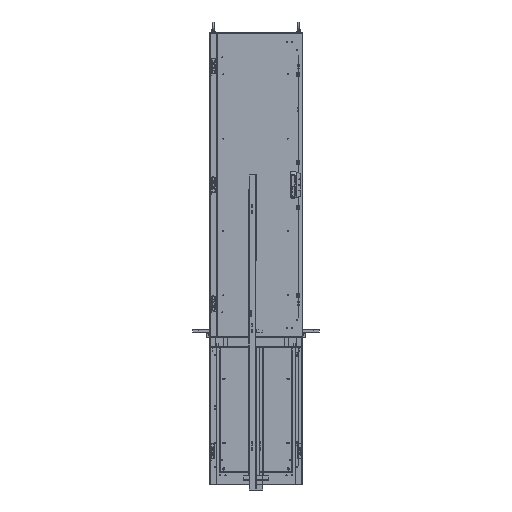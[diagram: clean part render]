
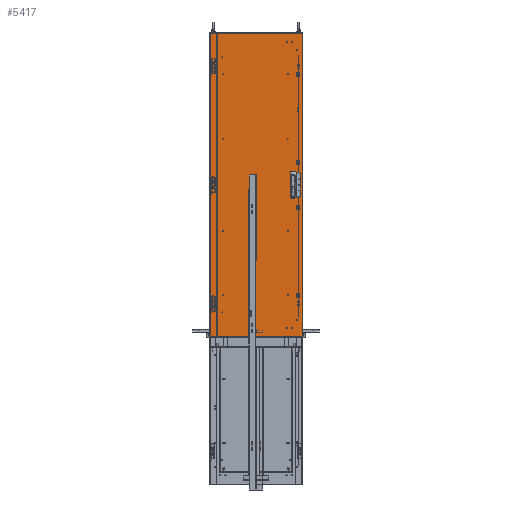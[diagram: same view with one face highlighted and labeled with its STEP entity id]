
A CAD part, front view. The second image highlights one B-rep face of the part: STEP entity #5417.
In plain terms, the highlighted planar face has unit normal (0, -1, 0).
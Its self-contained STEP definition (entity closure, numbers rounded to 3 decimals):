
#5417 = ADVANCED_FACE( '', ( #8033, #8034, #8035, #8036, #8037, #8038 ), #8039, .T. );
#8033 = FACE_BOUND( '', #12966, .T. );
#8034 = FACE_BOUND( '', #12967, .T. );
#8035 = FACE_BOUND( '', #12968, .T. );
#8036 = FACE_OUTER_BOUND( '', #12969, .T. );
#8037 = FACE_BOUND( '', #12970, .T. );
#8038 = FACE_BOUND( '', #12971, .T. );
#8039 = PLANE( '', #12972 );
#12966 = EDGE_LOOP( '', ( #22028, #22029, #22030, #22031 ) );
#12967 = EDGE_LOOP( '', ( #22032 ) );
#12968 = EDGE_LOOP( '', ( #22033, #22034, #22035, #22036 ) );
#12969 = EDGE_LOOP( '', ( #22037, #22038, #22039, #22040 ) );
#12970 = EDGE_LOOP( '', ( #22041, #22042, #22043, #22044 ) );
#12971 = EDGE_LOOP( '', ( #22045 ) );
#12972 = AXIS2_PLACEMENT_3D( '', #22046, #22047, #22048 );
#22028 = ORIENTED_EDGE( '', *, *, #37357, .F. );
#22029 = ORIENTED_EDGE( '', *, *, #37358, .F. );
#22030 = ORIENTED_EDGE( '', *, *, #37359, .F. );
#22031 = ORIENTED_EDGE( '', *, *, #37360, .F. );
#22032 = ORIENTED_EDGE( '', *, *, #37361, .T. );
#22033 = ORIENTED_EDGE( '', *, *, #37362, .F. );
#22034 = ORIENTED_EDGE( '', *, *, #37363, .F. );
#22035 = ORIENTED_EDGE( '', *, *, #37364, .F. );
#22036 = ORIENTED_EDGE( '', *, *, #37365, .F. );
#22037 = ORIENTED_EDGE( '', *, *, #37366, .T. );
#22038 = ORIENTED_EDGE( '', *, *, #37367, .F. );
#22039 = ORIENTED_EDGE( '', *, *, #37368, .F. );
#22040 = ORIENTED_EDGE( '', *, *, #37369, .F. );
#22041 = ORIENTED_EDGE( '', *, *, #37370, .T. );
#22042 = ORIENTED_EDGE( '', *, *, #37371, .T. );
#22043 = ORIENTED_EDGE( '', *, *, #37372, .T. );
#22044 = ORIENTED_EDGE( '', *, *, #37373, .T. );
#22045 = ORIENTED_EDGE( '', *, *, #37374, .T. );
#22046 = CARTESIAN_POINT( '', ( -289.751, 0., -948.531 ) );
#22047 = DIRECTION( '', ( 0., -1., 0. ) );
#22048 = DIRECTION( '', ( 0., 0., -1. ) );
#37357 = EDGE_CURVE( '', #43024, #43025, #43026, .T. );
#37358 = EDGE_CURVE( '', #43027, #43024, #43028, .T. );
#37359 = EDGE_CURVE( '', #43029, #43027, #43030, .T. );
#37360 = EDGE_CURVE( '', #43025, #43029, #43031, .T. );
#37361 = EDGE_CURVE( '', #43032, #43032, #43033, .T. );
#37362 = EDGE_CURVE( '', #43034, #43035, #43036, .T. );
#37363 = EDGE_CURVE( '', #43037, #43034, #43038, .T. );
#37364 = EDGE_CURVE( '', #43039, #43037, #43040, .T. );
#37365 = EDGE_CURVE( '', #43035, #43039, #43041, .T. );
#37366 = EDGE_CURVE( '', #43042, #43043, #43044, .T. );
#37367 = EDGE_CURVE( '', #43045, #43043, #43046, .T. );
#37368 = EDGE_CURVE( '', #43047, #43045, #43048, .T. );
#37369 = EDGE_CURVE( '', #43042, #43047, #43049, .T. );
#37370 = EDGE_CURVE( '', #43050, #43051, #43052, .T. );
#37371 = EDGE_CURVE( '', #43051, #43053, #43054, .T. );
#37372 = EDGE_CURVE( '', #43053, #43055, #43056, .T. );
#37373 = EDGE_CURVE( '', #43055, #43050, #43057, .T. );
#37374 = EDGE_CURVE( '', #43058, #43058, #43059, .T. );
#43024 = VERTEX_POINT( '', #52424 );
#43025 = VERTEX_POINT( '', #52425 );
#43026 = LINE( '', #52426, #52427 );
#43027 = VERTEX_POINT( '', #52428 );
#43028 = LINE( '', #52429, #52430 );
#43029 = VERTEX_POINT( '', #52431 );
#43030 = LINE( '', #52432, #52433 );
#43031 = LINE( '', #52434, #52435 );
#43032 = VERTEX_POINT( '', #52436 );
#43033 = CIRCLE( '', #52437, 4.013 );
#43034 = VERTEX_POINT( '', #52438 );
#43035 = VERTEX_POINT( '', #52439 );
#43036 = LINE( '', #52440, #52441 );
#43037 = VERTEX_POINT( '', #52442 );
#43038 = LINE( '', #52443, #52444 );
#43039 = VERTEX_POINT( '', #52445 );
#43040 = LINE( '', #52446, #52447 );
#43041 = LINE( '', #52448, #52449 );
#43042 = VERTEX_POINT( '', #52450 );
#43043 = VERTEX_POINT( '', #52451 );
#43044 = LINE( '', #52452, #52453 );
#43045 = VERTEX_POINT( '', #52454 );
#43046 = LINE( '', #52455, #52456 );
#43047 = VERTEX_POINT( '', #52457 );
#43048 = LINE( '', #52458, #52459 );
#43049 = LINE( '', #52460, #52461 );
#43050 = VERTEX_POINT( '', #52462 );
#43051 = VERTEX_POINT( '', #52463 );
#43052 = LINE( '', #52464, #52465 );
#43053 = VERTEX_POINT( '', #52466 );
#43054 = LINE( '', #52467, #52468 );
#43055 = VERTEX_POINT( '', #52469 );
#43056 = LINE( '', #52470, #52471 );
#43057 = LINE( '', #52472, #52473 );
#43058 = VERTEX_POINT( '', #52474 );
#43059 = CIRCLE( '', #52475, 4.013 );
#52424 = CARTESIAN_POINT( '', ( -242.233, 0., 75.006 ) );
#52425 = CARTESIAN_POINT( '', ( -242.233, 0., 24.994 ) );
#52426 = CARTESIAN_POINT( '', ( -242.233, 0., 75.006 ) );
#52427 = VECTOR( '', #67290, 1000. );
#52428 = CARTESIAN_POINT( '', ( -217.239, 0., 75.006 ) );
#52429 = CARTESIAN_POINT( '', ( -217.239, 0., 75.006 ) );
#52430 = VECTOR( '', #67291, 1000. );
#52431 = CARTESIAN_POINT( '', ( -217.239, 0., 24.994 ) );
#52432 = CARTESIAN_POINT( '', ( -217.239, 0., 24.994 ) );
#52433 = VECTOR( '', #67292, 1000. );
#52434 = CARTESIAN_POINT( '', ( -242.233, 0., 24.994 ) );
#52435 = VECTOR( '', #67293, 1000. );
#52436 = CARTESIAN_POINT( '', ( -261.714, 0., 35.001 ) );
#52437 = AXIS2_PLACEMENT_3D( '', #67294, #67295, #67296 );
#52438 = CARTESIAN_POINT( '', ( -266.248, 0., 15.875 ) );
#52439 = CARTESIAN_POINT( '', ( -266.248, 0., -15.875 ) );
#52440 = CARTESIAN_POINT( '', ( -266.248, 0., 15.875 ) );
#52441 = VECTOR( '', #67297, 1000. );
#52442 = CARTESIAN_POINT( '', ( -261.244, 0., 15.875 ) );
#52443 = CARTESIAN_POINT( '', ( -261.244, 0., 15.875 ) );
#52444 = VECTOR( '', #67298, 1000. );
#52445 = CARTESIAN_POINT( '', ( -261.244, 0., -15.875 ) );
#52446 = CARTESIAN_POINT( '', ( -261.244, 0., -15.875 ) );
#52447 = VECTOR( '', #67299, 1000. );
#52448 = CARTESIAN_POINT( '', ( -266.248, 0., -15.875 ) );
#52449 = VECTOR( '', #67300, 1000. );
#52450 = CARTESIAN_POINT( '', ( 287.007, 0., 945.788 ) );
#52451 = CARTESIAN_POINT( '', ( -287.007, 0., 945.788 ) );
#52452 = CARTESIAN_POINT( '', ( 287.007, 0., 945.788 ) );
#52453 = VECTOR( '', #67301, 1000. );
#52454 = CARTESIAN_POINT( '', ( -287.007, 0., -945.788 ) );
#52455 = CARTESIAN_POINT( '', ( -287.007, 0., -945.788 ) );
#52456 = VECTOR( '', #67302, 1000. );
#52457 = CARTESIAN_POINT( '', ( 287.007, 0., -945.788 ) );
#52458 = CARTESIAN_POINT( '', ( 287.007, 0., -945.788 ) );
#52459 = VECTOR( '', #67303, 1000. );
#52460 = CARTESIAN_POINT( '', ( 287.007, 0., 945.788 ) );
#52461 = VECTOR( '', #67304, 1000. );
#52462 = CARTESIAN_POINT( '', ( -242.233, 0., -25.019 ) );
#52463 = CARTESIAN_POINT( '', ( -217.239, 0., -25.019 ) );
#52464 = CARTESIAN_POINT( '', ( -242.233, 0., -25.019 ) );
#52465 = VECTOR( '', #67305, 1000. );
#52466 = CARTESIAN_POINT( '', ( -217.239, 0., -75.032 ) );
#52467 = CARTESIAN_POINT( '', ( -217.239, 0., -25.019 ) );
#52468 = VECTOR( '', #67306, 1000. );
#52469 = CARTESIAN_POINT( '', ( -242.233, 0., -75.032 ) );
#52470 = CARTESIAN_POINT( '', ( -217.239, 0., -75.032 ) );
#52471 = VECTOR( '', #67307, 1000. );
#52472 = CARTESIAN_POINT( '', ( -242.233, 0., -75.032 ) );
#52473 = VECTOR( '', #67308, 1000. );
#52474 = CARTESIAN_POINT( '', ( -261.714, 0., -35.001 ) );
#52475 = AXIS2_PLACEMENT_3D( '', #67309, #67310, #67311 );
#67290 = DIRECTION( '', ( 0., 0., -1. ) );
#67291 = DIRECTION( '', ( -1., 0., 0. ) );
#67292 = DIRECTION( '', ( 0., 0., 1. ) );
#67293 = DIRECTION( '', ( 1., 0., 0. ) );
#67294 = CARTESIAN_POINT( '', ( -265.728, 0., 35.001 ) );
#67295 = DIRECTION( '', ( 0., 1., 0. ) );
#67296 = DIRECTION( '', ( 1., 0., 0. ) );
#67297 = DIRECTION( '', ( 0., 0., -1. ) );
#67298 = DIRECTION( '', ( -1., 0., 0. ) );
#67299 = DIRECTION( '', ( 0., 0., 1. ) );
#67300 = DIRECTION( '', ( 1., 0., 0. ) );
#67301 = DIRECTION( '', ( -1., 0., 0. ) );
#67302 = DIRECTION( '', ( 0., 0., 1. ) );
#67303 = DIRECTION( '', ( -1., 0., 0. ) );
#67304 = DIRECTION( '', ( 0., 0., -1. ) );
#67305 = DIRECTION( '', ( 1., 0., 0. ) );
#67306 = DIRECTION( '', ( 0., 0., -1. ) );
#67307 = DIRECTION( '', ( -1., 0., 0. ) );
#67308 = DIRECTION( '', ( 0., 0., 1. ) );
#67309 = CARTESIAN_POINT( '', ( -265.728, 0., -35.001 ) );
#67310 = DIRECTION( '', ( 0., 1., 0. ) );
#67311 = DIRECTION( '', ( 1., 0., 0. ) );
